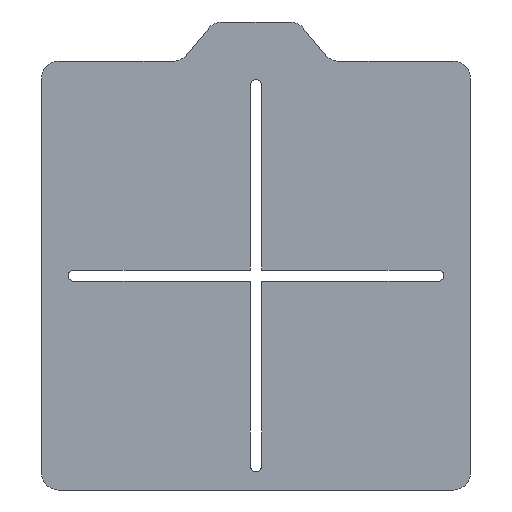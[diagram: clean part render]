
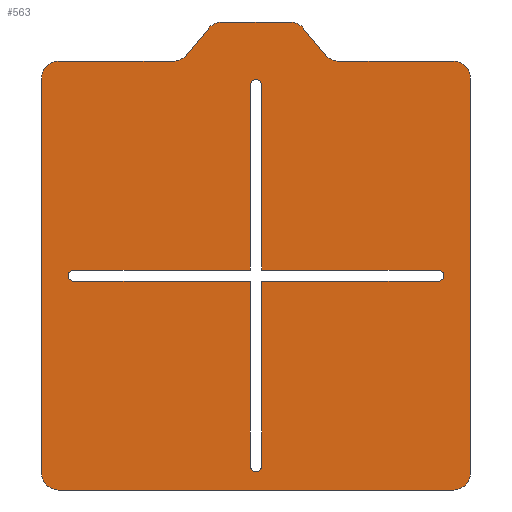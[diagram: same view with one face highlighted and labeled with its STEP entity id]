
A CAD part, front view. The second image highlights one B-rep face of the part: STEP entity #563.
In plain terms, the highlighted planar face has unit normal (0, -1, 0).
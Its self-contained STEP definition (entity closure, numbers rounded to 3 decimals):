
#15=FACE_BOUND('',#68,.T.);
#18=PLANE('',#609);
#37=FACE_OUTER_BOUND('',#67,.T.);
#67=EDGE_LOOP('',(#389,#390,#391,#392,#393,#394,#395,#396,#397,#398,#399,
#400,#401,#402,#403,#404));
#68=EDGE_LOOP('',(#405,#406,#407,#408,#409,#410,#411,#412,#413,#414,#415,
#416));
#99=LINE('',#841,#159);
#102=LINE('',#847,#162);
#103=LINE('',#851,#163);
#104=LINE('',#855,#164);
#105=LINE('',#859,#165);
#106=LINE('',#863,#166);
#107=LINE('',#867,#167);
#108=LINE('',#871,#168);
#109=LINE('',#877,#169);
#110=LINE('',#879,#170);
#111=LINE('',#883,#171);
#112=LINE('',#885,#172);
#113=LINE('',#889,#173);
#114=LINE('',#891,#174);
#115=LINE('',#895,#175);
#116=LINE('',#896,#176);
#159=VECTOR('',#671,10.);
#162=VECTOR('',#676,10.);
#163=VECTOR('',#679,10.);
#164=VECTOR('',#682,10.);
#165=VECTOR('',#685,10.);
#166=VECTOR('',#688,10.);
#167=VECTOR('',#691,10.);
#168=VECTOR('',#694,10.);
#169=VECTOR('',#699,10.);
#170=VECTOR('',#700,10.);
#171=VECTOR('',#703,10.);
#172=VECTOR('',#704,10.);
#173=VECTOR('',#707,10.);
#174=VECTOR('',#708,10.);
#175=VECTOR('',#711,10.);
#176=VECTOR('',#712,10.);
#218=CIRCLE('',#607,3.);
#219=CIRCLE('',#610,3.);
#220=CIRCLE('',#611,3.);
#221=CIRCLE('',#612,3.);
#222=CIRCLE('',#613,3.);
#223=CIRCLE('',#614,3.);
#224=CIRCLE('',#615,3.);
#225=CIRCLE('',#616,3.);
#226=CIRCLE('',#617,1.);
#227=CIRCLE('',#618,1.);
#228=CIRCLE('',#619,1.);
#229=CIRCLE('',#620,1.);
#243=VERTEX_POINT('',#834);
#244=VERTEX_POINT('',#836);
#245=VERTEX_POINT('',#840);
#247=VERTEX_POINT('',#846);
#248=VERTEX_POINT('',#848);
#249=VERTEX_POINT('',#850);
#250=VERTEX_POINT('',#852);
#251=VERTEX_POINT('',#854);
#252=VERTEX_POINT('',#856);
#253=VERTEX_POINT('',#858);
#254=VERTEX_POINT('',#860);
#255=VERTEX_POINT('',#862);
#256=VERTEX_POINT('',#864);
#257=VERTEX_POINT('',#866);
#258=VERTEX_POINT('',#868);
#259=VERTEX_POINT('',#870);
#260=VERTEX_POINT('',#873);
#261=VERTEX_POINT('',#874);
#262=VERTEX_POINT('',#876);
#263=VERTEX_POINT('',#878);
#264=VERTEX_POINT('',#880);
#265=VERTEX_POINT('',#882);
#266=VERTEX_POINT('',#884);
#267=VERTEX_POINT('',#886);
#268=VERTEX_POINT('',#888);
#269=VERTEX_POINT('',#890);
#270=VERTEX_POINT('',#892);
#271=VERTEX_POINT('',#894);
#299=EDGE_CURVE('',#243,#244,#218,.T.);
#301=EDGE_CURVE('',#245,#244,#99,.T.);
#304=EDGE_CURVE('',#243,#247,#102,.T.);
#305=EDGE_CURVE('',#248,#247,#219,.T.);
#306=EDGE_CURVE('',#248,#249,#103,.T.);
#307=EDGE_CURVE('',#250,#249,#220,.T.);
#308=EDGE_CURVE('',#250,#251,#104,.T.);
#309=EDGE_CURVE('',#252,#251,#221,.T.);
#310=EDGE_CURVE('',#253,#252,#105,.T.);
#311=EDGE_CURVE('',#254,#253,#222,.T.);
#312=EDGE_CURVE('',#255,#254,#106,.T.);
#313=EDGE_CURVE('',#256,#255,#223,.T.);
#314=EDGE_CURVE('',#256,#257,#107,.T.);
#315=EDGE_CURVE('',#258,#257,#224,.T.);
#316=EDGE_CURVE('',#258,#259,#108,.T.);
#317=EDGE_CURVE('',#245,#259,#225,.T.);
#318=EDGE_CURVE('',#260,#261,#226,.T.);
#319=EDGE_CURVE('',#262,#260,#109,.T.);
#320=EDGE_CURVE('',#263,#262,#110,.T.);
#321=EDGE_CURVE('',#264,#263,#227,.T.);
#322=EDGE_CURVE('',#265,#264,#111,.T.);
#323=EDGE_CURVE('',#266,#265,#112,.T.);
#324=EDGE_CURVE('',#267,#266,#228,.T.);
#325=EDGE_CURVE('',#268,#267,#113,.T.);
#326=EDGE_CURVE('',#269,#268,#114,.T.);
#327=EDGE_CURVE('',#270,#269,#229,.T.);
#328=EDGE_CURVE('',#271,#270,#115,.T.);
#329=EDGE_CURVE('',#261,#271,#116,.T.);
#389=ORIENTED_EDGE('',*,*,#299,.F.);
#390=ORIENTED_EDGE('',*,*,#304,.T.);
#391=ORIENTED_EDGE('',*,*,#305,.F.);
#392=ORIENTED_EDGE('',*,*,#306,.T.);
#393=ORIENTED_EDGE('',*,*,#307,.F.);
#394=ORIENTED_EDGE('',*,*,#308,.T.);
#395=ORIENTED_EDGE('',*,*,#309,.F.);
#396=ORIENTED_EDGE('',*,*,#310,.F.);
#397=ORIENTED_EDGE('',*,*,#311,.F.);
#398=ORIENTED_EDGE('',*,*,#312,.F.);
#399=ORIENTED_EDGE('',*,*,#313,.F.);
#400=ORIENTED_EDGE('',*,*,#314,.T.);
#401=ORIENTED_EDGE('',*,*,#315,.F.);
#402=ORIENTED_EDGE('',*,*,#316,.T.);
#403=ORIENTED_EDGE('',*,*,#317,.F.);
#404=ORIENTED_EDGE('',*,*,#301,.T.);
#405=ORIENTED_EDGE('',*,*,#318,.F.);
#406=ORIENTED_EDGE('',*,*,#319,.F.);
#407=ORIENTED_EDGE('',*,*,#320,.F.);
#408=ORIENTED_EDGE('',*,*,#321,.F.);
#409=ORIENTED_EDGE('',*,*,#322,.F.);
#410=ORIENTED_EDGE('',*,*,#323,.F.);
#411=ORIENTED_EDGE('',*,*,#324,.F.);
#412=ORIENTED_EDGE('',*,*,#325,.F.);
#413=ORIENTED_EDGE('',*,*,#326,.F.);
#414=ORIENTED_EDGE('',*,*,#327,.F.);
#415=ORIENTED_EDGE('',*,*,#328,.F.);
#416=ORIENTED_EDGE('',*,*,#329,.F.);
#563=ADVANCED_FACE('',(#37,#15),#18,.F.);
#607=AXIS2_PLACEMENT_3D('',#837,#666,#667);
#609=AXIS2_PLACEMENT_3D('',#845,#674,#675);
#610=AXIS2_PLACEMENT_3D('',#849,#677,#678);
#611=AXIS2_PLACEMENT_3D('',#853,#680,#681);
#612=AXIS2_PLACEMENT_3D('',#857,#683,#684);
#613=AXIS2_PLACEMENT_3D('',#861,#686,#687);
#614=AXIS2_PLACEMENT_3D('',#865,#689,#690);
#615=AXIS2_PLACEMENT_3D('',#869,#692,#693);
#616=AXIS2_PLACEMENT_3D('',#872,#695,#696);
#617=AXIS2_PLACEMENT_3D('',#875,#697,#698);
#618=AXIS2_PLACEMENT_3D('',#881,#701,#702);
#619=AXIS2_PLACEMENT_3D('',#887,#705,#706);
#620=AXIS2_PLACEMENT_3D('',#893,#709,#710);
#666=DIRECTION('center_axis',(0.,1.,0.));
#667=DIRECTION('ref_axis',(0.707,0.,-0.707));
#671=DIRECTION('',(1.,0.,0.));
#674=DIRECTION('center_axis',(0.,1.,0.));
#675=DIRECTION('ref_axis',(1.,0.,0.));
#676=DIRECTION('',(0.,0.,1.));
#677=DIRECTION('center_axis',(0.,1.,0.));
#678=DIRECTION('ref_axis',(0.707,0.,0.707));
#679=DIRECTION('',(-1.,0.,0.));
#680=DIRECTION('center_axis',(0.,-1.,0.));
#681=DIRECTION('ref_axis',(-0.423,0.,-0.906));
#682=DIRECTION('',(-0.643,0.,0.766));
#683=DIRECTION('center_axis',(0.,1.,0.));
#684=DIRECTION('ref_axis',(0.423,0.,0.906));
#685=DIRECTION('',(1.,0.,0.));
#686=DIRECTION('center_axis',(0.,1.,0.));
#687=DIRECTION('ref_axis',(-0.423,0.,0.906));
#688=DIRECTION('',(0.643,0.,0.766));
#689=DIRECTION('center_axis',(0.,-1.,0.));
#690=DIRECTION('ref_axis',(0.423,0.,-0.906));
#691=DIRECTION('',(-1.,0.,0.));
#692=DIRECTION('center_axis',(0.,1.,0.));
#693=DIRECTION('ref_axis',(-0.707,0.,0.707));
#694=DIRECTION('',(0.,0.,-1.));
#695=DIRECTION('center_axis',(0.,1.,0.));
#696=DIRECTION('ref_axis',(-0.707,0.,-0.707));
#697=DIRECTION('center_axis',(0.,-1.,0.));
#698=DIRECTION('ref_axis',(0.,0.,-1.));
#699=DIRECTION('',(-1.,0.,0.));
#700=DIRECTION('',(0.,0.,-1.));
#701=DIRECTION('center_axis',(0.,-1.,0.));
#702=DIRECTION('ref_axis',(-1.,0.,0.));
#703=DIRECTION('',(0.,0.,1.));
#704=DIRECTION('',(-1.,0.,0.));
#705=DIRECTION('center_axis',(0.,-1.,0.));
#706=DIRECTION('ref_axis',(0.,0.,1.));
#707=DIRECTION('',(1.,0.,0.));
#708=DIRECTION('',(0.,0.,1.));
#709=DIRECTION('center_axis',(0.,-1.,0.));
#710=DIRECTION('ref_axis',(1.,0.,0.));
#711=DIRECTION('',(0.,0.,-1.));
#712=DIRECTION('',(1.,0.,0.));
#834=CARTESIAN_POINT('',(136.5,0.,61.827));
#836=CARTESIAN_POINT('',(133.5,0.,58.827));
#837=CARTESIAN_POINT('Origin',(133.5,0.,61.827));
#840=CARTESIAN_POINT('',(63.,0.,58.827));
#841=CARTESIAN_POINT('',(60.,0.,58.827));
#845=CARTESIAN_POINT('Origin',(98.25,0.,100.577));
#846=CARTESIAN_POINT('',(136.5,0.,132.327));
#847=CARTESIAN_POINT('',(136.5,0.,58.827));
#848=CARTESIAN_POINT('',(133.5,0.,135.327));
#849=CARTESIAN_POINT('Origin',(133.5,0.,132.327));
#850=CARTESIAN_POINT('',(113.023,0.,135.327));
#851=CARTESIAN_POINT('',(136.5,0.,135.327));
#852=CARTESIAN_POINT('',(110.724,0.,136.399));
#853=CARTESIAN_POINT('Origin',(113.023,0.,138.327));
#854=CARTESIAN_POINT('',(106.649,0.,141.256));
#855=CARTESIAN_POINT('',(111.624,0.,135.327));
#856=CARTESIAN_POINT('',(104.351,0.,142.327));
#857=CARTESIAN_POINT('Origin',(104.351,0.,139.327));
#858=CARTESIAN_POINT('',(92.149,0.,142.327));
#859=CARTESIAN_POINT('',(90.75,0.,142.327));
#860=CARTESIAN_POINT('',(89.851,0.,141.256));
#861=CARTESIAN_POINT('Origin',(92.149,0.,139.327));
#862=CARTESIAN_POINT('',(85.776,0.,136.399));
#863=CARTESIAN_POINT('',(84.876,0.,135.327));
#864=CARTESIAN_POINT('',(83.477,0.,135.327));
#865=CARTESIAN_POINT('Origin',(83.477,0.,138.327));
#866=CARTESIAN_POINT('',(63.,0.,135.327));
#867=CARTESIAN_POINT('',(136.5,0.,135.327));
#868=CARTESIAN_POINT('',(60.,0.,132.327));
#869=CARTESIAN_POINT('Origin',(63.,0.,132.327));
#870=CARTESIAN_POINT('',(60.,0.,61.827));
#871=CARTESIAN_POINT('',(60.,0.,135.327));
#872=CARTESIAN_POINT('Origin',(63.,0.,61.827));
#873=CARTESIAN_POINT('',(65.75,0.,98.077));
#874=CARTESIAN_POINT('',(65.75,0.,96.077));
#875=CARTESIAN_POINT('Origin',(65.75,0.,97.077));
#876=CARTESIAN_POINT('',(97.25,0.,98.077));
#877=CARTESIAN_POINT('',(65.75,0.,98.077));
#878=CARTESIAN_POINT('',(97.25,0.,131.077));
#879=CARTESIAN_POINT('',(97.25,0.,63.077));
#880=CARTESIAN_POINT('',(99.25,0.,131.077));
#881=CARTESIAN_POINT('Origin',(98.25,0.,131.077));
#882=CARTESIAN_POINT('',(99.25,0.,98.077));
#883=CARTESIAN_POINT('',(99.25,0.,131.077));
#884=CARTESIAN_POINT('',(130.75,0.,98.077));
#885=CARTESIAN_POINT('',(65.75,0.,98.077));
#886=CARTESIAN_POINT('',(130.75,0.,96.077));
#887=CARTESIAN_POINT('Origin',(130.75,0.,97.077));
#888=CARTESIAN_POINT('',(99.25,0.,96.077));
#889=CARTESIAN_POINT('',(130.75,0.,96.077));
#890=CARTESIAN_POINT('',(99.25,0.,63.077));
#891=CARTESIAN_POINT('',(99.25,0.,131.077));
#892=CARTESIAN_POINT('',(97.25,0.,63.077));
#893=CARTESIAN_POINT('Origin',(98.25,0.,63.077));
#894=CARTESIAN_POINT('',(97.25,0.,96.077));
#895=CARTESIAN_POINT('',(97.25,0.,63.077));
#896=CARTESIAN_POINT('',(130.75,0.,96.077));
